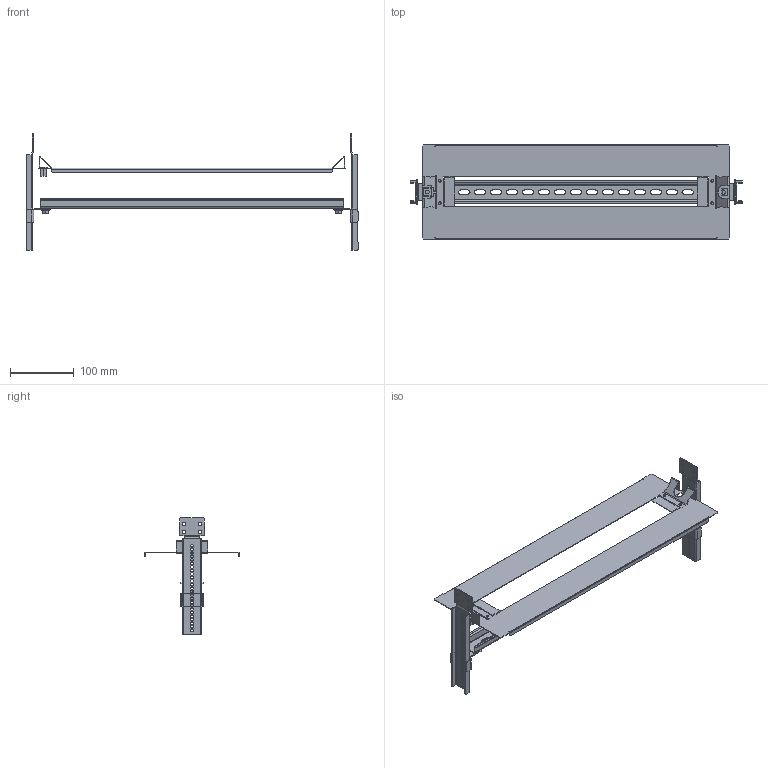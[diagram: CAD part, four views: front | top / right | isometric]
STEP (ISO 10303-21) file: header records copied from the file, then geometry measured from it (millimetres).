
FILE_DESCRIPTION(('CAx-IF Rec.Pracs.---Model Styling and Organization---1.2---2011-12-15','CAx-IF Rec.Pracs.---Geometric and Assembly Validation Properties---4.1---2014-06-16','CAx-IF Rec.Pracs.---PMI Polyline Presentation---2.0---2013-05-24'),'2;1');
FILE_NAME('R5PKIB0V61524.stp','2021-05-05T13:49:33+03:00',(''),(''),'STEP Interface 4.4 by CT CoreTechnologie','3D_Evolution4.4 by CT CoreTechnologie','');
FILE_SCHEMA(('AUTOMOTIVE_DESIGN { 1 0 10303 214 1 1 1 1 }'));
Length unit declared in the file: millimetre
Products named in the file (12): R5PKIB0V61524; RB.0585.00.00.1_-00; M6-DIN 6923 (CM100600)_straight; RB.0589.00.00.0_-00; 294-9118.00-00050(1); 294-9118.00-00050(2); RB.0376.00.00.0_-00; RB.0588.00.00.1 ÑÁ_-00; RB.0588.00.01.1_-00; RB.0392.00.02.0_ª«¨­ç(1); RB.0392.00.02.0_ª«¨­ç(2); RB.0244.00.00.1_R5CPME600R.1
Assembly tree (14 placements, depth 3):
  R5PKIB0V61524
    RB.0585.00.00.1_-00  x2
    M6-DIN 6923 (CM100600)_straight  x2
    RB.0589.00.00.0_-00  x2
    294-9118.00-00050(1)
      294-9118.00-00050(2)
      RB.0376.00.00.0_-00
    RB.0588.00.00.1 ÑÁ_-00
      RB.0588.00.01.1_-00
      RB.0392.00.02.0_ª«¨­ç(1)
      RB.0392.00.02.0_ª«¨­ç(2)
    RB.0244.00.00.1_R5CPME600R.1
Bounding box: 520 x 148 x 182.75 mm (x, y, z)
Surface area: 226452.4 mm2 (no closed solid volume)
Topology: 0 solids, 19 shells, 677 faces, 1816 edges, 1180 vertices
Faces by surface type: plane 351, cylinder 278, bspline 48
Entity records: 17375 total; most frequent: CARTESIAN_POINT 3379, DIRECTION 2798, ORIENTED_EDGE 2772, EDGE_CURVE 1386, VECTOR 940, LINE 940, AXIS2_PLACEMENT_3D 929, VERTEX_POINT 908
